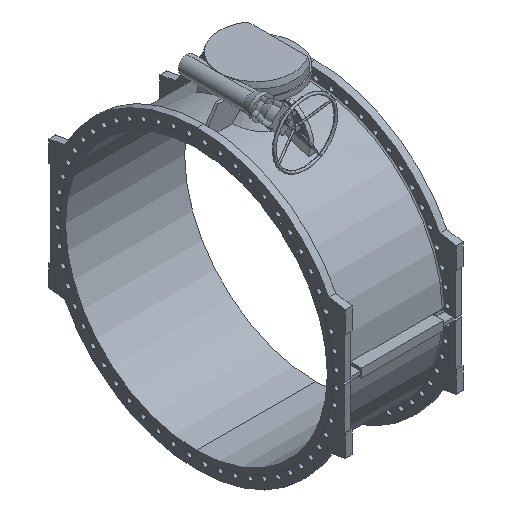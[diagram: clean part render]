
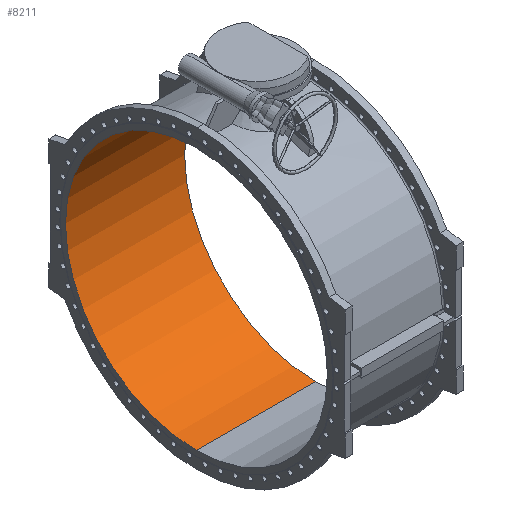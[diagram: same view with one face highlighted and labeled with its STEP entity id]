
A CAD part, isometric view. The second image highlights one B-rep face of the part: STEP entity #8211.
In plain terms, the highlighted cylindrical face has radius 1220 mm (diameter 2440 mm), a partial arc.
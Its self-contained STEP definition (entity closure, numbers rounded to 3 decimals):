
#61 = CIRCLE ( 'NONE', #1860, 1220. ) ;
#377 = CARTESIAN_POINT ( 'NONE',  ( -555., 0., 0. ) ) ;
#522 = CARTESIAN_POINT ( 'NONE',  ( -555., 0., -1220. ) ) ;
#1132 = DIRECTION ( 'NONE',  ( 0., 0., 1. ) ) ;
#1316 = VERTEX_POINT ( 'NONE', #18272 ) ;
#1860 = AXIS2_PLACEMENT_3D ( 'NONE', #24050, #6594, #15247 ) ;
#1990 = AXIS2_PLACEMENT_3D ( 'NONE', #377, #13700, #22086 ) ;
#2479 = VERTEX_POINT ( 'NONE', #5810 ) ;
#3361 = EDGE_LOOP ( 'NONE', ( #18842, #27808, #19336, #11078 ) ) ;
#3483 = VECTOR ( 'NONE', #22896, 1000. ) ;
#5810 = CARTESIAN_POINT ( 'NONE',  ( -555., 0., 1220. ) ) ;
#6594 = DIRECTION ( 'NONE',  ( -1., 0., 0. ) ) ;
#7173 = EDGE_CURVE ( 'NONE', #1316, #2479, #27306, .T. ) ;
#8211 = ADVANCED_FACE ( 'Defeatured_0_330', ( #27659 ), #10341, .F. ) ;
#10262 = CARTESIAN_POINT ( 'NONE',  ( 0., 0., 1220. ) ) ;
#10341 = CYLINDRICAL_SURFACE ( 'NONE', #14390, 1220. ) ;
#10361 = LINE ( 'NONE', #12898, #15412 ) ;
#11078 = ORIENTED_EDGE ( 'NONE', *, *, #19031, .T. ) ;
#11258 = CARTESIAN_POINT ( 'NONE',  ( 555., 0., -1220. ) ) ;
#12898 = CARTESIAN_POINT ( 'NONE',  ( 0., 0., -1220. ) ) ;
#13700 = DIRECTION ( 'NONE',  ( -1., 0., 0. ) ) ;
#13769 = EDGE_CURVE ( 'NONE', #26620, #20778, #10361, .T. ) ;
#14225 = CIRCLE ( 'NONE', #1990, 1220. ) ;
#14390 = AXIS2_PLACEMENT_3D ( 'NONE', #14458, #16729, #1132 ) ;
#14458 = CARTESIAN_POINT ( 'NONE',  ( 0., 0., 0. ) ) ;
#14850 = EDGE_CURVE ( 'Defeatured_0_145+Defeatured_0_330+Defeatured_0_330+Defeatured_0_330', #1316, #26620, #61, .T. ) ;
#15247 = DIRECTION ( 'NONE',  ( 0., 0., 1. ) ) ;
#15412 = VECTOR ( 'NONE', #19014, 1000. ) ;
#16729 = DIRECTION ( 'NONE',  ( -1., 0., 0. ) ) ;
#18272 = CARTESIAN_POINT ( 'NONE',  ( 555., 0., 1220. ) ) ;
#18842 = ORIENTED_EDGE ( 'NONE', *, *, #13769, .F. ) ;
#19014 = DIRECTION ( 'NONE',  ( -1., 0., 0. ) ) ;
#19031 = EDGE_CURVE ( 'Defeatured_0_330+Defeatured_0_103+Defeatured_0_103+Defeatured_0_103', #2479, #20778, #14225, .T. ) ;
#19336 = ORIENTED_EDGE ( 'NONE', *, *, #7173, .T. ) ;
#20778 = VERTEX_POINT ( 'NONE', #522 ) ;
#22086 = DIRECTION ( 'NONE',  ( 0., 0., 1. ) ) ;
#22896 = DIRECTION ( 'NONE',  ( -1., 0., 0. ) ) ;
#24050 = CARTESIAN_POINT ( 'NONE',  ( 555., 0., 0. ) ) ;
#26620 = VERTEX_POINT ( 'NONE', #11258 ) ;
#27306 = LINE ( 'NONE', #10262, #3483 ) ;
#27659 = FACE_OUTER_BOUND ( 'NONE', #3361, .T. ) ;
#27808 = ORIENTED_EDGE ( 'NONE', *, *, #14850, .F. ) ;
